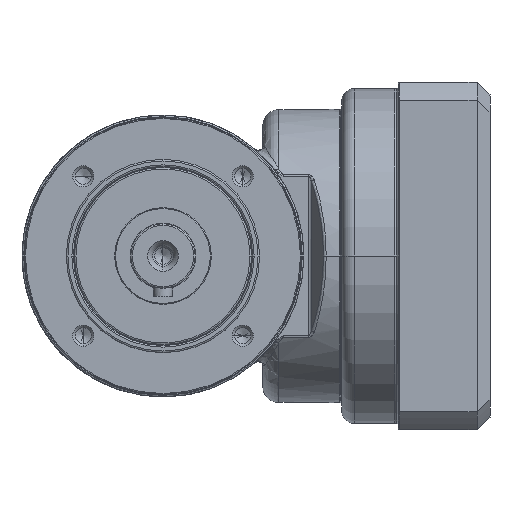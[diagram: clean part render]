
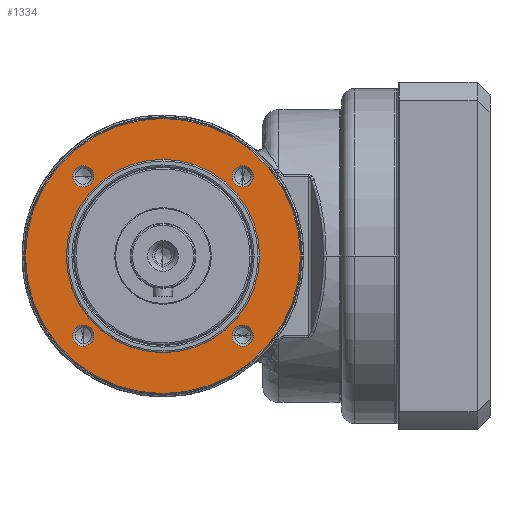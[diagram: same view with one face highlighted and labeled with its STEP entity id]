
A CAD part, left-side view. The second image highlights one B-rep face of the part: STEP entity #1334.
In plain terms, the highlighted planar face has unit normal (-1, 0, 0).
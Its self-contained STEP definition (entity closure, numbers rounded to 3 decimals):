
#210=CARTESIAN_POINT('',(3.,24.749,24.749));
#211=DIRECTION('',(1.,0.,0.));
#212=DIRECTION('',(0.,-1.,0.));
#213=AXIS2_PLACEMENT_3D('',#210,#211,#212);
#215=CARTESIAN_POINT('',(3.,24.749,24.749));
#216=DIRECTION('',(1.,0.,0.));
#217=DIRECTION('',(0.,1.,0.));
#218=AXIS2_PLACEMENT_3D('',#215,#216,#217);
#220=CARTESIAN_POINT('',(3.,24.749,-24.749));
#221=DIRECTION('',(1.,0.,0.));
#222=DIRECTION('',(0.,0.,1.));
#223=AXIS2_PLACEMENT_3D('',#220,#221,#222);
#225=CARTESIAN_POINT('',(3.,24.749,-24.749));
#226=DIRECTION('',(1.,0.,0.));
#227=DIRECTION('',(0.,0.,-1.));
#228=AXIS2_PLACEMENT_3D('',#225,#226,#227);
#230=CARTESIAN_POINT('',(3.,-24.749,-24.749));
#231=DIRECTION('',(1.,0.,0.));
#232=DIRECTION('',(0.,1.,0.));
#233=AXIS2_PLACEMENT_3D('',#230,#231,#232);
#235=CARTESIAN_POINT('',(3.,-24.749,-24.749));
#236=DIRECTION('',(1.,0.,0.));
#237=DIRECTION('',(0.,-1.,0.));
#238=AXIS2_PLACEMENT_3D('',#235,#236,#237);
#240=CARTESIAN_POINT('',(3.,-24.749,24.749));
#241=DIRECTION('',(1.,0.,0.));
#242=DIRECTION('',(0.,0.,-1.));
#243=AXIS2_PLACEMENT_3D('',#240,#241,#242);
#245=CARTESIAN_POINT('',(3.,-24.749,24.749));
#246=DIRECTION('',(1.,0.,0.));
#247=DIRECTION('',(0.,0.,1.));
#248=AXIS2_PLACEMENT_3D('',#245,#246,#247);
#250=CARTESIAN_POINT('',(3.,0.,0.));
#251=DIRECTION('',(-1.,0.,0.));
#252=DIRECTION('',(0.,1.,0.));
#253=AXIS2_PLACEMENT_3D('',#250,#251,#252);
#255=CARTESIAN_POINT('',(3.,0.,0.));
#256=DIRECTION('',(-1.,0.,0.));
#257=DIRECTION('',(0.,-1.,0.));
#258=AXIS2_PLACEMENT_3D('',#255,#256,#257);
#260=CARTESIAN_POINT('',(3.,0.,0.));
#261=DIRECTION('',(1.,0.,0.));
#262=DIRECTION('',(0.,1.,0.));
#263=AXIS2_PLACEMENT_3D('',#260,#261,#262);
#265=CARTESIAN_POINT('',(3.,0.,0.));
#266=DIRECTION('',(1.,0.,0.));
#267=DIRECTION('',(0.,-1.,0.));
#268=AXIS2_PLACEMENT_3D('',#265,#266,#267);
#878=CARTESIAN_POINT('',(3.,21.449,24.749));
#879=CARTESIAN_POINT('',(3.,28.049,24.749));
#880=VERTEX_POINT('',#878);
#881=VERTEX_POINT('',#879);
#882=CARTESIAN_POINT('',(3.,24.749,-21.449));
#883=CARTESIAN_POINT('',(3.,24.749,-28.049));
#884=VERTEX_POINT('',#882);
#885=VERTEX_POINT('',#883);
#886=CARTESIAN_POINT('',(3.,-21.449,-24.749));
#887=CARTESIAN_POINT('',(3.,-28.049,-24.749));
#888=VERTEX_POINT('',#886);
#889=VERTEX_POINT('',#887);
#890=CARTESIAN_POINT('',(3.,-24.749,21.449));
#891=CARTESIAN_POINT('',(3.,-24.749,28.049));
#892=VERTEX_POINT('',#890);
#893=VERTEX_POINT('',#891);
#972=CARTESIAN_POINT('',(3.,30.,0.));
#973=CARTESIAN_POINT('',(3.,-30.,0.));
#974=VERTEX_POINT('',#972);
#975=VERTEX_POINT('',#973);
#984=CARTESIAN_POINT('',(3.,42.7,0.));
#985=CARTESIAN_POINT('',(3.,-42.7,0.));
#986=VERTEX_POINT('',#984);
#987=VERTEX_POINT('',#985);
#1295=CARTESIAN_POINT('',(3.,0.,0.));
#1296=DIRECTION('',(-1.,0.,0.));
#1297=DIRECTION('',(0.,1.,0.));
#1298=AXIS2_PLACEMENT_3D('',#1295,#1296,#1297);
#1299=PLANE('',#1298);
#1300=ORIENTED_EDGE('',*,*,#1222,.T.);
#1301=ORIENTED_EDGE('',*,*,#1237,.T.);
#1302=EDGE_LOOP('',(#1300,#1301));
#1303=FACE_OUTER_BOUND('',#1302,.F.);
#1305=ORIENTED_EDGE('',*,*,#1304,.F.);
#1307=ORIENTED_EDGE('',*,*,#1306,.F.);
#1308=EDGE_LOOP('',(#1305,#1307));
#1309=FACE_BOUND('',#1308,.F.);
#1311=ORIENTED_EDGE('',*,*,#1310,.F.);
#1313=ORIENTED_EDGE('',*,*,#1312,.F.);
#1314=EDGE_LOOP('',(#1311,#1313));
#1315=FACE_BOUND('',#1314,.F.);
#1317=ORIENTED_EDGE('',*,*,#1316,.F.);
#1319=ORIENTED_EDGE('',*,*,#1318,.F.);
#1320=EDGE_LOOP('',(#1317,#1319));
#1321=FACE_BOUND('',#1320,.F.);
#1323=ORIENTED_EDGE('',*,*,#1322,.F.);
#1325=ORIENTED_EDGE('',*,*,#1324,.F.);
#1326=EDGE_LOOP('',(#1323,#1325));
#1327=FACE_BOUND('',#1326,.F.);
#1329=ORIENTED_EDGE('',*,*,#1328,.T.);
#1331=ORIENTED_EDGE('',*,*,#1330,.T.);
#1332=EDGE_LOOP('',(#1329,#1331));
#1333=FACE_BOUND('',#1332,.F.);
#1334=ADVANCED_FACE('',(#1303,#1309,#1315,#1321,#1327,#1333),#1299,.T.);
#214=CIRCLE('',#213,3.3);
#219=CIRCLE('',#218,3.3);
#224=CIRCLE('',#223,3.3);
#229=CIRCLE('',#228,3.3);
#234=CIRCLE('',#233,3.3);
#239=CIRCLE('',#238,3.3);
#244=CIRCLE('',#243,3.3);
#249=CIRCLE('',#248,3.3);
#254=CIRCLE('',#253,30.);
#259=CIRCLE('',#258,30.);
#264=CIRCLE('',#263,42.7);
#269=CIRCLE('',#268,42.7);
#1222=EDGE_CURVE('',#986,#987,#264,.T.);
#1237=EDGE_CURVE('',#987,#986,#269,.T.);
#1304=EDGE_CURVE('',#880,#881,#214,.T.);
#1306=EDGE_CURVE('',#881,#880,#219,.T.);
#1310=EDGE_CURVE('',#884,#885,#224,.T.);
#1312=EDGE_CURVE('',#885,#884,#229,.T.);
#1316=EDGE_CURVE('',#888,#889,#234,.T.);
#1318=EDGE_CURVE('',#889,#888,#239,.T.);
#1322=EDGE_CURVE('',#892,#893,#244,.T.);
#1324=EDGE_CURVE('',#893,#892,#249,.T.);
#1328=EDGE_CURVE('',#974,#975,#254,.T.);
#1330=EDGE_CURVE('',#975,#974,#259,.T.);
